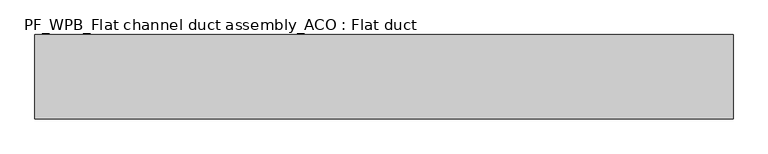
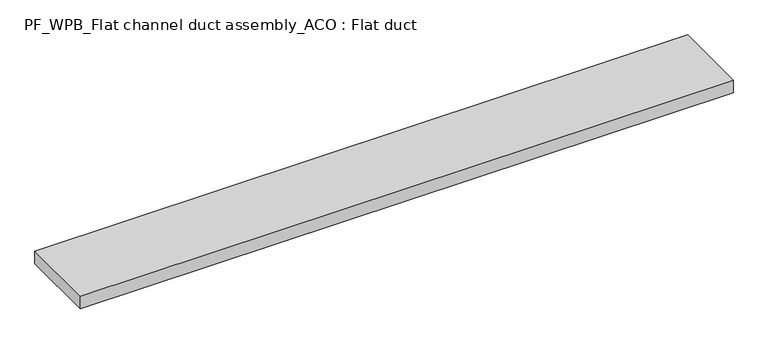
"""IFC4 building model written with IfcOpenShell, lengths in millimetres: sanitary terminal geometry, PF_WPB_Flat channel duct assembly_ACO : Flat duct."""

from ifc_helpers import new_model, si_unit, frame, origin, place, context, project, spatial, polyline, outline, extrude, source, transform, mapped, element, save


def pf_wpb_flat_channel_duct_assembly_aco_flat_duct_26208939(model_context):
    return source(origin(), model_context, "Body", "SweptSolid", [
        extrude(outline(polyline([(2070.0, 125.0), (2070.0, -125.0), (0.0, -125.0), (0.0, 125.0), (2070.0, 125.0)])), frame((0.0, 0.0, -42.0), z_axis=(0.0, 0.0, 1.0), x_axis=(1.0, 0.0, 0.0)), (0.0, 0.0, 1.0), 42.0),
    ])


if __name__ == "__main__":
    model = new_model("IFC4")
    model_context = context("Model", 3, world=origin())
    ifc_project = project(units=[si_unit("LENGTHUNIT", "METRE", prefix="MILLI")], contexts=[model_context])
    site = spatial("IfcSite", under=ifc_project)
    building = spatial("IfcBuilding", under=site)
    placement = place(None, origin())
    pf_wpb_flat_channel_duct_assembly_aco_flat_duct_shape = pf_wpb_flat_channel_duct_assembly_aco_flat_duct_26208939(model_context)
    element("IfcSanitaryTerminal", 1, ObjectType="PF_WPB_Flat channel duct assembly_ACO : Flat duct", at=placement, inside=building, context=model_context, shape_type="MappedRepresentation", body=[
        mapped(pf_wpb_flat_channel_duct_assembly_aco_flat_duct_shape, transform((0.0, 0.0, 0.0), x_axis=(1.0, 0.0, 0.0), y_axis=(0.0, 1.0, 0.0), z_axis=(0.0, 0.0, 1.0))),
    ])
    save(model, "model.ifc")
